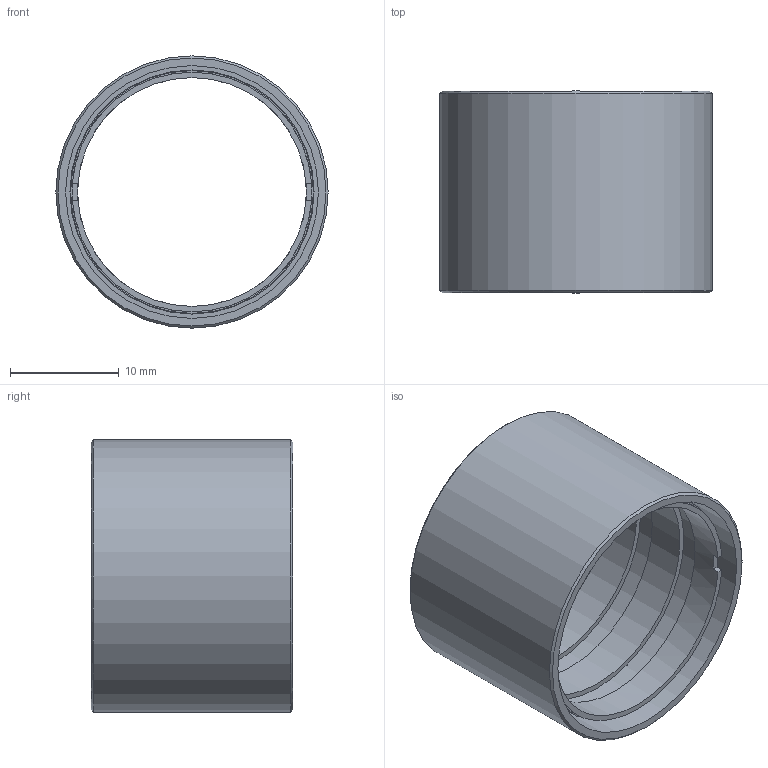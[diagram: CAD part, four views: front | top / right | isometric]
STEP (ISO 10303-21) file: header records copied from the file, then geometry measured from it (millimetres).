
FILE_DESCRIPTION(('FreeCAD Model'),'2;1');
FILE_NAME('C:/Users/patrick.janassek/Desktop/G063671000_STEP.STP', '2020-06-02T08:42:05',('Author'),(''), 'Open CASCADE STEP processor 7.3','FreeCAD','Unknown');
FILE_SCHEMA(('AUTOMOTIVE_DESIGN { 1 0 10303 214 1 1 1 1 }'));
Length unit declared in the file: millimetre
Products named in the file (5): G063671000; 063010012_ZWISCHENRING_22.4_2_; 063010011_FASSUNG_CL_22,4-17,5; 063010012_ZWISCHENRING_22.4_2_001; 063666000_VORSCHRAUBRING_M23,2
Assembly tree (4 placements, depth 2):
  G063671000
    063010012_ZWISCHENRING_22.4_2_
    063010011_FASSUNG_CL_22,4-17,5
    063010012_ZWISCHENRING_22.4_2_001
    063666000_VORSCHRAUBRING_M23,2
Bounding box: 25 x 18.5 x 25 mm (x, y, z)
Volume: 1905.8 mm3; surface area: 4640.7 mm2
Topology: 4 solids, 4 shells, 31 faces, 63 edges, 42 vertices
Faces by surface type: plane 18, cylinder 11, cone 2
Full cylindrical faces by diameter (mm): 21 x1, 21.4 x3, 22 x1, 22.28 x1, 22.4 x3, 23.2 x1, 25 x1
Entity records: 1837 total; most frequent: CARTESIAN_POINT 412, DIRECTION 260, ORIENTED_EDGE 126, PCURVE 126, DEFINITIONAL_REPRESENTATION 126, LINE 110, VECTOR 110, AXIS2_PLACEMENT_3D 70
